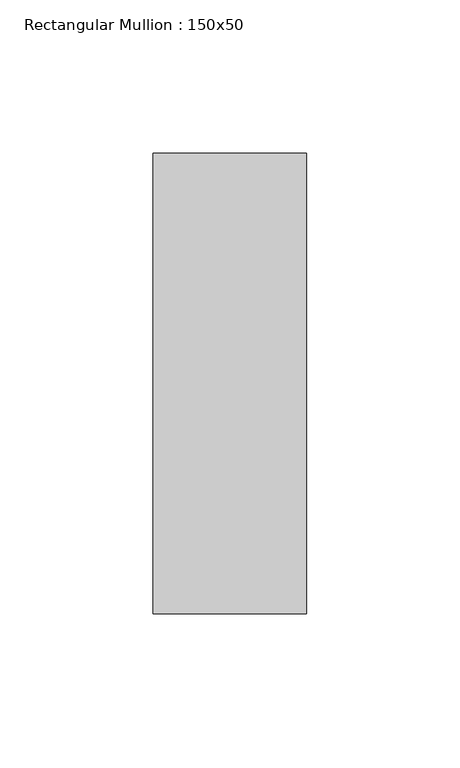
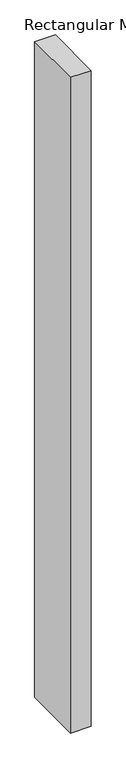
"""IFC4 building model written with IfcOpenShell, lengths in millimetres: member geometry, Rectangular Mullion : 150x50."""

import ifcopenshell
import ifcopenshell.guid

model = None  # the IFC model being written
_history = None  # IfcOwnerHistory: only IFC2X3 demands one
_inside = {}  # id of a spatial element -> (the spatial element, [elements in it])
_under = {}  # id of a project, library or spatial element -> (it, [spatial elements below it])
_declared = {}  # id of a project -> (the project, [libraries it declares])
_typed = {}  # id of a type object -> (the type object, [elements of that type])
_made_of = {}  # id of a material, layer set ... -> (it, [elements and type objects made of it])


def new_model(schema):
    """Start an empty IFC model of exactly this schema.

    Asked for "IFC4X3", IfcOpenShell would pick the latest addendum, in which some entities
    have other attributes; the version numbers below select the first issue.
    IFC2X3 requires an IfcOwnerHistory on every rooted entity: one is made here for all.
    """
    global model, _history
    if schema == "IFC4X3":
        model = ifcopenshell.file(schema_version=(4, 3, 0, 0))
    else:
        model = ifcopenshell.file(schema=schema)
    _inside.clear()
    _under.clear()
    _declared.clear()
    _typed.clear()
    _made_of.clear()
    _history = None
    if model.schema == "IFC2X3":
        org = make("IfcOrganization", Name="unknown")
        user = make(
            "IfcPersonAndOrganization",
            ThePerson=make("IfcPerson", FamilyName="unknown"),
            TheOrganization=org,
        )
        app = make(
            "IfcApplication",
            ApplicationDeveloper=org,
            Version="unknown",
            ApplicationFullName="unknown",
            ApplicationIdentifier="unknown",
        )
        _history = make(
            "IfcOwnerHistory",
            OwningUser=user,
            OwningApplication=app,
            ChangeAction="ADDED",
            CreationDate=0,
        )
    return model


def make(cls, **values):
    """One entity of the class cls with the attributes given. An attribute that is None is left unset."""
    return model.create_entity(
        cls, **{name: value for name, value in values.items() if value is not None}
    )


def rooted(cls, **values):
    """An entity with a GlobalId (a new one), such as an element, a storey or a relation."""
    return make(cls, GlobalId=ifcopenshell.guid.new(), OwnerHistory=_history, **values)


def si_unit(unit_type, name, prefix=None):
    """IfcSIUnit, for example si_unit("LENGTHUNIT", "METRE", prefix="MILLI")."""
    return make("IfcSIUnit", UnitType=unit_type, Prefix=prefix, Name=name)


def assignment(units):
    """IfcUnitAssignment: the units of a project."""
    return None if units is None else make("IfcUnitAssignment", Units=units)


def point(xyz):
    """IfcCartesianPoint."""
    return None if xyz is None else make("IfcCartesianPoint", Coordinates=xyz)


def direction(xyz):
    """IfcDirection."""
    return None if xyz is None else make("IfcDirection", DirectionRatios=xyz)


def frame(location, z_axis=None, x_axis=None):
    """IfcAxis2Placement3D, a coordinate frame: its origin and axes. An axis left out is left unset."""
    return make(
        "IfcAxis2Placement3D",
        Location=point(location),
        Axis=direction(z_axis),
        RefDirection=direction(x_axis),
    )


def origin():
    """The frame at (0, 0, 0) with its axes left unset."""
    return frame((0.0, 0.0, 0.0))


def place(relative_to, where):
    """IfcLocalPlacement: puts the frame where relative to a parent placement (None: the world)."""
    return make(
        "IfcLocalPlacement", PlacementRelTo=relative_to, RelativePlacement=where
    )


def context(
    kind, dimensions, precision=None, world=None, true_north=None, identifier=None
):
    """IfcGeometricRepresentationContext, for example the 3D "Model" context."""
    return make(
        "IfcGeometricRepresentationContext",
        ContextIdentifier=identifier,
        ContextType=kind,
        CoordinateSpaceDimension=dimensions,
        Precision=precision,
        WorldCoordinateSystem=world,
        TrueNorth=true_north,
    )


def project(units=None, contexts=None):
    """IfcProject with its units and contexts."""
    return rooted(
        "IfcProject",
        Name="project",
        RepresentationContexts=contexts,
        UnitsInContext=assignment(units),
    )


def spatial(cls, under=None, at=None, **own):
    """A site, building, storey or space (cls), placed at a placement, below another one or the project."""
    s = rooted(cls, ObjectPlacement=at, **own)
    if under is not None:
        _under.setdefault(under.id(), (under, []))[1].append(s)
    return s


def polyline(points):
    """IfcPolyline through the points."""
    return make("IfcPolyline", Points=[point(p) for p in points])


def outline(outer, holes=None, kind="AREA"):
    """IfcArbitraryClosedProfileDef: a profile drawn as a closed curve; with holes, ...WithVoids."""
    if holes is None:
        return make("IfcArbitraryClosedProfileDef", ProfileType=kind, OuterCurve=outer)
    return make(
        "IfcArbitraryProfileDefWithVoids",
        ProfileType=kind,
        OuterCurve=outer,
        InnerCurves=holes,
    )


def extrude(swept, where, along, depth):
    """IfcExtrudedAreaSolid: the profile swept, set in the frame where, extruded along a direction by depth."""
    return make(
        "IfcExtrudedAreaSolid",
        SweptArea=swept,
        Position=where,
        ExtrudedDirection=direction(along),
        Depth=depth,
    )


def shape(context_of_items, identifier, shape_type, items):
    """IfcShapeRepresentation: the items that make up one representation, for example the "Body"."""
    return make(
        "IfcShapeRepresentation",
        ContextOfItems=context_of_items,
        RepresentationIdentifier=identifier,
        RepresentationType=shape_type,
        Items=items,
    )


def source(mapping_origin, context_of_items, identifier, shape_type, items):
    """IfcRepresentationMap: a shape defined once, which mapped items show again and again."""
    return make(
        "IfcRepresentationMap",
        MappingOrigin=mapping_origin,
        MappedRepresentation=shape(context_of_items, identifier, shape_type, items),
    )


def transform(
    local_origin,
    x_axis=None,
    y_axis=None,
    z_axis=None,
    scale=None,
    scale2=None,
    scale3=None,
    uniform=True,
):
    """IfcCartesianTransformationOperator3D, or its non-uniform kind. x_axis, y_axis, z_axis: its Axis1, 2, 3."""
    if uniform:
        return make(
            "IfcCartesianTransformationOperator3D",
            Axis1=direction(x_axis),
            Axis2=direction(y_axis),
            LocalOrigin=point(local_origin),
            Scale=scale,
            Axis3=direction(z_axis),
        )
    return make(
        "IfcCartesianTransformationOperator3DnonUniform",
        Axis1=direction(x_axis),
        Axis2=direction(y_axis),
        LocalOrigin=point(local_origin),
        Scale=scale,
        Axis3=direction(z_axis),
        Scale2=scale2,
        Scale3=scale3,
    )


def mapped(mapping_source, mapping_target):
    """IfcMappedItem: shows the shape of a source again, moved by a transform."""
    return make(
        "IfcMappedItem", MappingSource=mapping_source, MappingTarget=mapping_target
    )


def made_of(thing, what):
    """Note that an element or type object is made of a material, layer set ...; save() writes the relation."""
    if what is not None:
        _made_of.setdefault(what.id(), (what, []))[1].append(thing)
    return thing


def element(
    cls,
    number,
    at=None,
    inside=None,
    cuts=None,
    type_object=None,
    material=None,
    context=None,
    identifier="Body",
    shape_type=None,
    held_by="IfcProductDefinitionShape",
    body=None,
    shapes=None,
    **own,
):
    """One element of the class cls, such as IfcWall. Its Tag is "e" and its number.

    at: its placement. inside: the storey or other place that contains it. cuts: it is an
    opening in that element (IfcRelVoidsElement). A single representation is given by context,
    identifier, shape_type and body (its items); several are given by shapes. held_by: the class
    of the entity that holds the representations. save() writes the other relations.
    """
    e = rooted(cls, Tag="e%d" % number, ObjectPlacement=at, **own)
    if body is not None:
        shapes = [shape(context, identifier, shape_type, body)]
    if shapes is not None:
        e.Representation = make(held_by, Representations=shapes)
    if inside is not None:
        _inside.setdefault(inside.id(), (inside, []))[1].append(e)
    if cuts is not None:
        rooted(
            "IfcRelVoidsElement", RelatingBuildingElement=cuts, RelatedOpeningElement=e
        )
    if type_object is not None:
        _typed.setdefault(type_object.id(), (type_object, []))[1].append(e)
    return made_of(e, material)


def aggregate(whole, parts):
    """IfcRelAggregates: a whole, such as a stair, and the parts it consists of."""
    return rooted("IfcRelAggregates", RelatingObject=whole, RelatedObjects=parts)


def save(model, path):
    """Write the relations noted so far, then the file.

    IfcRelAggregates (storeys below a building ...), IfcRelContainedInSpatialStructure (elements
    in a storey), IfcRelDefinesByType, IfcRelAssociatesMaterial and IfcRelDeclares: one each for
    every whole, place, type object, material and project.
    """
    for whole, parts in _under.values():
        aggregate(whole, parts)
    for where, things in _inside.values():
        rooted(
            "IfcRelContainedInSpatialStructure",
            RelatedElements=things,
            RelatingStructure=where,
        )
    for kind, things in _typed.values():
        rooted("IfcRelDefinesByType", RelatedObjects=things, RelatingType=kind)
    for what, things in _made_of.values():
        rooted("IfcRelAssociatesMaterial", RelatedObjects=things, RelatingMaterial=what)
    for by, libraries in _declared.values():
        rooted("IfcRelDeclares", RelatingContext=by, RelatedDefinitions=libraries)
    model.write(path)


def rectangular_mullion_150x50_6fe6f3c3(model_context):
    return source(origin(), model_context, "Body", "SweptSolid", [
        extrude(outline(polyline([(0.0, 75.0), (0.0, -75.0), (-50.0, -75.0), (-50.0, 75.0), (0.0, 75.0)])), frame((0.0, 0.0, -1675.0), z_axis=(0.0, 0.0, 1.0), x_axis=(1.0, 0.0, 0.0)), (0.0, 0.0, 1.0), 1675.0),
    ])


if __name__ == "__main__":
    model = new_model("IFC4")
    model_context = context("Model", 3, world=origin())
    ifc_project = project(units=[si_unit("LENGTHUNIT", "METRE", prefix="MILLI")], contexts=[model_context])
    site = spatial("IfcSite", under=ifc_project)
    building = spatial("IfcBuilding", under=site)
    placement = place(None, origin())
    rectangular_mullion_150x50_shape = rectangular_mullion_150x50_6fe6f3c3(model_context)
    element("IfcMember", 1, ObjectType="Rectangular Mullion : 150x50", at=placement, inside=building, context=model_context, shape_type="MappedRepresentation", body=[
        mapped(rectangular_mullion_150x50_shape, transform((0.0, 0.0, 0.0), x_axis=(1.0, 0.0, 0.0), y_axis=(0.0, 1.0, 0.0), z_axis=(0.0, 0.0, 1.0))),
    ])
    save(model, "model.ifc")
